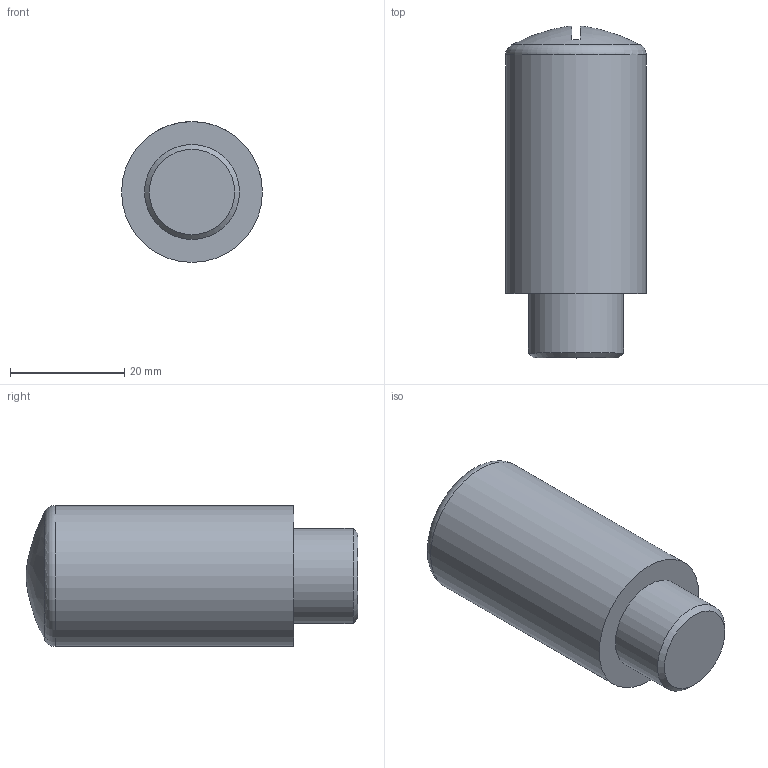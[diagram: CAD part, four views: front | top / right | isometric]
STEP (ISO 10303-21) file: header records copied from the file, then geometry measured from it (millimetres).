
FILE_DESCRIPTION( ( 'STEP AP214' ), '1' );
FILE_NAME( 'p:/temp/worker_7/temp/exporttempdir_2732_537_16yF2/format_0/W0970530064.stp', '2021-12-09T08:33:12', ( 'License CC BY-ND 4.0' ), ( 'CADENAS' ), ' ', 'PARTsolutions', ' ' );
FILE_SCHEMA( ( 'AUTOMOTIVE_DESIGN { 1 0 10303 214 1 1 1 1 }' ) );
Length unit declared in the file: millimetre
Products named in the file (1): _W0970530064
Bounding box: 24.7 x 58.21 x 24.7 mm (x, y, z)
Volume: 23865.8 mm3; surface area: 4936.7 mm2
Topology: 1 solids, 1 shells, 10 faces, 18 edges, 11 vertices
Faces by surface type: plane 5, cylinder 2, cone 1, torus 1, bspline 1
Full cylindrical faces by diameter (mm): 16.662 x1, 24.7 x1
Entity records: 361 total; most frequent: CARTESIAN_POINT 94, DIRECTION 38, ORIENTED_EDGE 24, AXIS2_PLACEMENT_3D 18, EDGE_LOOP 16, FACE_OUTER_BOUND 14, EDGE_CURVE 12, STYLED_ITEM 10
